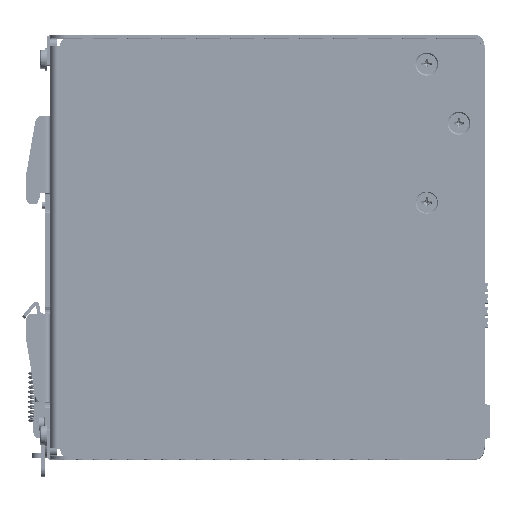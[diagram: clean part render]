
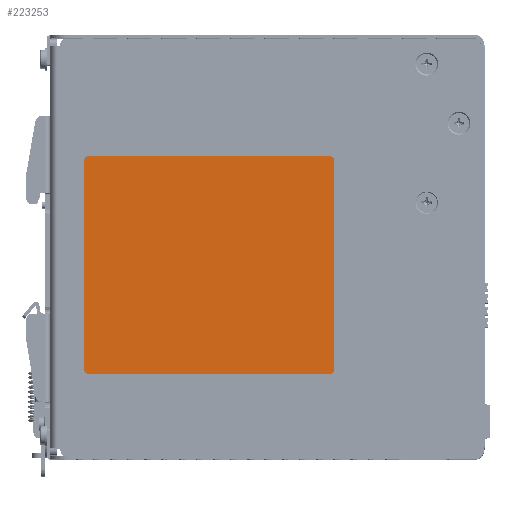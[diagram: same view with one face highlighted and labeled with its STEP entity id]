
A CAD part, top view. The second image highlights one B-rep face of the part: STEP entity #223253.
In plain terms, the highlighted planar face has unit normal (0, 0, 1) as drawn and (0, -1, 0) by its records, which use the part's own axes.
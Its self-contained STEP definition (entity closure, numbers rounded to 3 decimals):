
#223022=CARTESIAN_POINT('',(-35.5,0.,-30.75));
#223023=DIRECTION('',(0.,1.,0.));
#223024=DIRECTION('',(0.,0.,-1.));
#223025=AXIS2_PLACEMENT_3D('',#223022,#223023,#223024);
#223030=CARTESIAN_POINT('',(-35.5,0.,30.75));
#223031=DIRECTION('',(0.,1.,0.));
#223032=DIRECTION('',(-1.,0.,0.));
#223033=AXIS2_PLACEMENT_3D('',#223030,#223031,#223032);
#223038=CARTESIAN_POINT('',(35.5,0.,30.75));
#223039=DIRECTION('',(0.,1.,0.));
#223040=DIRECTION('',(0.,0.,1.));
#223041=AXIS2_PLACEMENT_3D('',#223038,#223039,#223040);
#223046=CARTESIAN_POINT('',(35.5,0.,-30.75));
#223047=DIRECTION('',(0.,1.,0.));
#223048=DIRECTION('',(1.,0.,0.));
#223049=AXIS2_PLACEMENT_3D('',#223046,#223047,#223048);
#223068=DIRECTION('',(1.,0.,0.));
#223069=VECTOR('',#223068,71.);
#223070=CARTESIAN_POINT('',(-35.5,0.,-31.75));
#223071=LINE('',#223070,#223069);
#223089=DIRECTION('',(0.,0.,1.));
#223090=VECTOR('',#223089,61.5);
#223091=CARTESIAN_POINT('',(36.5,0.,-30.75));
#223092=LINE('',#223091,#223090);
#223110=DIRECTION('',(-1.,0.,0.));
#223111=VECTOR('',#223110,71.);
#223112=CARTESIAN_POINT('',(35.5,0.,31.75));
#223113=LINE('',#223112,#223111);
#223131=DIRECTION('',(0.,0.,-1.));
#223132=VECTOR('',#223131,61.5);
#223133=CARTESIAN_POINT('',(-36.5,0.,30.75));
#223134=LINE('',#223133,#223132);
#223198=CARTESIAN_POINT('',(-35.5,0.,-31.75));
#223199=CARTESIAN_POINT('',(-36.5,0.,-30.75));
#223200=VERTEX_POINT('',#223198);
#223201=VERTEX_POINT('',#223199);
#223202=CARTESIAN_POINT('',(-36.5,0.,30.75));
#223203=VERTEX_POINT('',#223202);
#223204=CARTESIAN_POINT('',(-35.5,0.,31.75));
#223205=VERTEX_POINT('',#223204);
#223206=CARTESIAN_POINT('',(35.5,0.,31.75));
#223207=VERTEX_POINT('',#223206);
#223208=CARTESIAN_POINT('',(36.5,0.,30.75));
#223209=VERTEX_POINT('',#223208);
#223210=CARTESIAN_POINT('',(36.5,0.,-30.75));
#223211=VERTEX_POINT('',#223210);
#223212=CARTESIAN_POINT('',(35.5,0.,-31.75));
#223213=VERTEX_POINT('',#223212);
#223230=CARTESIAN_POINT('',(0.,0.,0.));
#223231=DIRECTION('',(0.,1.,0.));
#223232=DIRECTION('',(1.,0.,0.));
#223233=AXIS2_PLACEMENT_3D('',#223230,#223231,#223232);
#223234=PLANE('',#223233);
#223236=ORIENTED_EDGE('',*,*,#223235,.T.);
#223238=ORIENTED_EDGE('',*,*,#223237,.F.);
#223240=ORIENTED_EDGE('',*,*,#223239,.T.);
#223242=ORIENTED_EDGE('',*,*,#223241,.F.);
#223244=ORIENTED_EDGE('',*,*,#223243,.T.);
#223246=ORIENTED_EDGE('',*,*,#223245,.F.);
#223248=ORIENTED_EDGE('',*,*,#223247,.T.);
#223250=ORIENTED_EDGE('',*,*,#223249,.F.);
#223251=EDGE_LOOP('',(#223236,#223238,#223240,#223242,#223244,#223246,#223248,
#223250));
#223252=FACE_OUTER_BOUND('',#223251,.F.);
#223253=ADVANCED_FACE('',(#223252),#223234,.F.);
#223026=CIRCLE('',#223025,1.);
#223034=CIRCLE('',#223033,1.);
#223042=CIRCLE('',#223041,1.);
#223050=CIRCLE('',#223049,1.);
#223235=EDGE_CURVE('',#223200,#223201,#223026,.T.);
#223237=EDGE_CURVE('',#223203,#223201,#223134,.T.);
#223239=EDGE_CURVE('',#223203,#223205,#223034,.T.);
#223241=EDGE_CURVE('',#223207,#223205,#223113,.T.);
#223243=EDGE_CURVE('',#223207,#223209,#223042,.T.);
#223245=EDGE_CURVE('',#223211,#223209,#223092,.T.);
#223247=EDGE_CURVE('',#223211,#223213,#223050,.T.);
#223249=EDGE_CURVE('',#223200,#223213,#223071,.T.);
